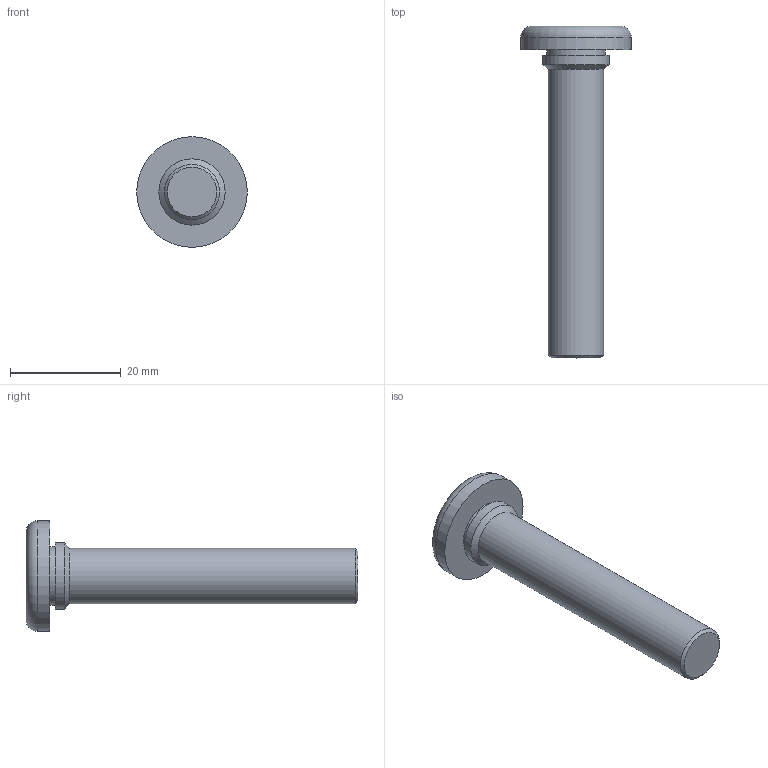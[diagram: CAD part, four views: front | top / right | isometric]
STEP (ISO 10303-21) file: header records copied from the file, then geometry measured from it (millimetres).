
FILE_DESCRIPTION(/* description */ (''),/* implementation_level */ '2;1');
FILE_NAME(/* name */ 'C:\Users\keval.kumar\Desktop\Fastit\Press Screw\M10\Press Screw_M10 x60.stp',/* time_stamp */ '2024-03-12T17:51:30+05:00',/* author */ ('keval.kumar'),/* organization */ (''),/* preprocessor_version */ 'ST-DEVELOPER v18.1',/* originating_system */ 'Autodesk Inventor 2022',/* authorisation */ '');
FILE_SCHEMA (('AUTOMOTIVE_DESIGN { 1 0 10303 214 3 1 1 }'));
Length unit declared in the file: millimetre
Products named in the file (1): Press Screw_M10 x60
Bounding box: 20 x 60 x 20 mm (x, y, z)
Volume: 5749.7 mm3; surface area: 2632.3 mm2
Topology: 1 solids, 1 shells, 11 faces, 19 edges, 12 vertices
Faces by surface type: cylinder 4, plane 4, cone 2, torus 1
Full cylindrical faces by diameter (mm): 10 x1, 10.5 x1, 12 x1, 20 x1
Entity records: 313 total; most frequent: DIRECTION 56, CARTESIAN_POINT 43, ORIENTED_EDGE 38, AXIS2_PLACEMENT_3D 25, EDGE_CURVE 19, EDGE_LOOP 13, CIRCLE 13, VERTEX_POINT 12
